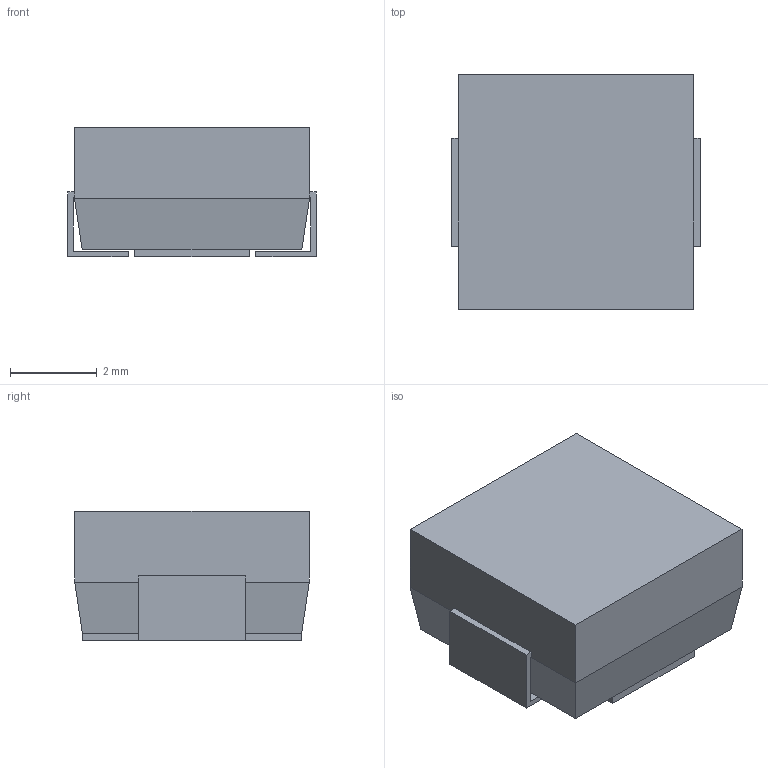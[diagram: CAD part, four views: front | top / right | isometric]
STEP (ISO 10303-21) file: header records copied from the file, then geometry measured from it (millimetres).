
FILE_DESCRIPTION(('FreeCAD Model'),'2;1');
FILE_NAME('Open CASCADE Shape Model','2026-02-05T09:01:32',(''),(''), 'Open CASCADE STEP processor 7.8','FreeCAD','Unknown');
FILE_SCHEMA(('AUTOMOTIVE_DESIGN { 1 0 10303 214 1 1 1 1 }'));
Length unit declared in the file: millimetre
Products named in the file (4): part003; part; part001; part002
Assembly tree (3 placements, depth 2):
  part003
    part
    part001
    part002
Bounding box: 5.74 x 5.41 x 3 mm (x, y, z)
Volume: 84.6 mm3; surface area: 148.8 mm2
Topology: 3 solids, 3 shells, 36 faces, 82 edges, 52 vertices
Faces by surface type: plane 36
Entity records: 1075 total; most frequent: CARTESIAN_POINT 174, ORIENTED_EDGE 164, DIRECTION 162, EDGE_CURVE 82, LINE 82, VECTOR 82, VERTEX_POINT 52, AXIS2_PLACEMENT_3D 40
